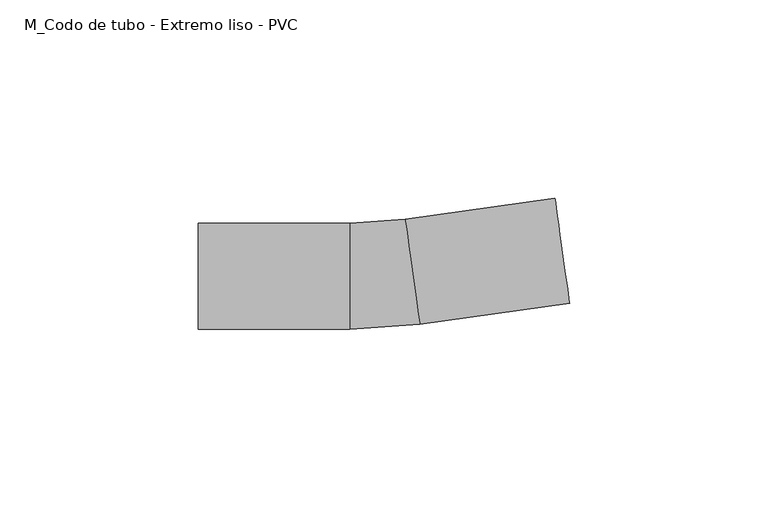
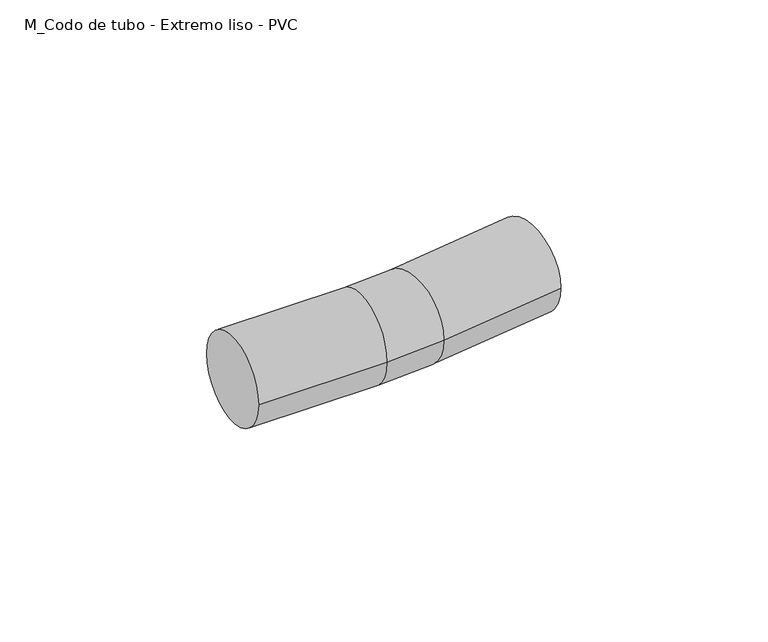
"""IFC4 building model written with IfcOpenShell, lengths in millimetres: cable carrier fitting geometry, M_Codo de tubo - Extremo liso - PVC : CODO ILUMINACION."""

from ifc_helpers import new_model, si_unit, point, frame, origin, place, context, project, spatial, circle_curve, ellipse_curve, trimmed, source, transform, mapped, element, save
from ifc_brep_helpers import plane_surface, cylinder_surface, revolved_surface, advanced_brep


def m_codo_de_tubo_extremo_liso_pvc_6ad27ddb(model_context):
    return source(origin(), model_context, "Body", "AdvancedBrep", [
        advanced_brep(
        [(-46.0472237, -13.335, 0.0), (-46.0472237, 13.335, 0.0), (-7.9472237, -13.335, 0.0), (-7.9472237, 13.335, 0.0), (6.0253233, 14.3065044, 0.0), (9.7161847, -12.1068718, 0.0), (47.4495793, -6.8342125, 0.0), (43.7587178, 19.5791637, 0.0)],
        [
            (0, 1, circle_curve(frame((-46.0472237, 0.0, 0.0), z_axis=(-1.0, 0.0, 0.0), x_axis=(0.0, 1.0, 0.0)), 13.335)),
            (1, 0, circle_curve(frame((-46.0472237, 0.0, 0.0), z_axis=(-1.0, 0.0, 0.0), x_axis=(0.0, 1.0, 0.0)), 13.335)),
            (0, 2),
            (2, 3, circle_curve(frame((-7.9472237, 0.0, 0.0), z_axis=(-1.0, 0.0, 0.0), x_axis=(0.0, 1.0, 0.0)), 13.335)),
            (3, 1),
            (3, 2, circle_curve(frame((-7.9472237, 0.0, 0.0), z_axis=(-1.0, 0.0, 0.0), x_axis=(0.0, 1.0, 0.0)), 13.335)),
            (4, 3, circle_curve(frame((-7.9472237, 114.3, 0.0), z_axis=(0.0, 0.0, -1.0), x_axis=(0.0, -1.0, 0.0)), 100.965)),
            (2, 5, circle_curve(frame((-7.9472237, 114.3, 0.0), z_axis=(0.0, 0.0, 1.0), x_axis=(0.0, -1.0, 0.0)), 127.635)),
            (5, 4, circle_curve(frame((7.870754, 1.0998163, 0.0), z_axis=(-0.9903778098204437, -0.13839000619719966, 0.0), x_axis=(-0.13839000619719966, 0.9903778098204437, 0.0)), 13.335)),
            (4, 5, circle_curve(frame((7.870754, 1.0998163, 0.0), z_axis=(-0.9903778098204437, -0.13839000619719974, 0.0), x_axis=(-0.13839000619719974, 0.9903778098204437, 0.0)), 13.335)),
            (6, 7, circle_curve(frame((45.6041486, 6.3724756, 0.0), z_axis=(0.9903778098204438, 0.1383900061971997, 0.0), x_axis=(-0.1383900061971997, 0.9903778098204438, 0.0)), 13.335)),
            (7, 6, circle_curve(frame((45.6041486, 6.3724756, 0.0), z_axis=(0.9903778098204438, 0.1383900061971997, 0.0), x_axis=(-0.1383900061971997, 0.9903778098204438, 0.0)), 13.335)),
            (5, 6),
            (7, 4),
        ],
        [
            plane_surface(frame((-46.0472237, 0.0, 0.0), z_axis=(-1.0, 0.0, 0.0), x_axis=(0.0, 0.0, 1.0))),
            cylinder_surface(frame((-46.0472237, 0.0, 0.0), z_axis=(-1.0, 0.0, 0.0), x_axis=(0.0, 1.0, 0.0)), 13.335),
            revolved_surface(trimmed(ellipse_curve(frame((-7.9472237, 0.0, 0.0), z_axis=(-1.0, 0.0, 0.0), x_axis=(0.0, 1.0, 0.0)), 13.335, 13.335), [point((-7.9472237, -13.335, 0.0))], [point((-7.9472237, 13.335, 0.0))], True, "CARTESIAN"), (-7.9472237, 114.3, 0.0), (0.0, 0.0, 1.0)),
            revolved_surface(trimmed(ellipse_curve(frame((-7.9472237, 0.0, 0.0), z_axis=(-1.0, 0.0, 0.0), x_axis=(0.0, 1.0, 0.0)), 13.335, 13.335), [point((-7.9472237, 13.335, 0.0))], [point((-7.9472237, -13.335, 0.0))], True, "CARTESIAN"), (-7.9472237, 114.3, 0.0), (0.0, 0.0, 1.0)),
            plane_surface(frame((45.6041486, 6.3724756, 0.0), z_axis=(0.9903778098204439, 0.1383900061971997, 0.0), x_axis=(0.0, 0.0, 1.0))),
            cylinder_surface(frame((7.870754, 1.0998163, 0.0), z_axis=(-0.9903778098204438, -0.1383900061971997, 0.0), x_axis=(-0.1383900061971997, 0.9903778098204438, 0.0)), 13.335),
        ],
        [
            (0, [[1, 2]]),
            (1, [[-1, 3, 4, 5]]),
            (1, [[-2, -5, 6, -3]]),
            (2, [[7, -4, 8, 9]]),
            (3, [[-8, -6, -7, 10]]),
            (4, [[11, 12]]),
            (5, [[-9, 13, -12, 14]]),
            (5, [[-10, -14, -11, -13]]),
        ],
    ),
    ])


if __name__ == "__main__":
    model = new_model("IFC4")
    model_context = context("Model", 3, world=origin())
    ifc_project = project(units=[si_unit("LENGTHUNIT", "METRE", prefix="MILLI")], contexts=[model_context])
    site = spatial("IfcSite", under=ifc_project)
    building = spatial("IfcBuilding", under=site)
    placement = place(None, origin())
    m_codo_de_tubo_extremo_liso_pvc_shape = m_codo_de_tubo_extremo_liso_pvc_6ad27ddb(model_context)
    element("IfcCableCarrierFitting", 1, ObjectType="M_Codo de tubo - Extremo liso - PVC : CODO ILUMINACION", at=placement, inside=building, context=model_context, shape_type="MappedRepresentation", body=[
        mapped(m_codo_de_tubo_extremo_liso_pvc_shape, transform((0.0, 0.0, 0.0), x_axis=(1.0, 0.0, 0.0), y_axis=(0.0, 1.0, 0.0), z_axis=(0.0, 0.0, 1.0))),
    ])
    save(model, "model.ifc")
